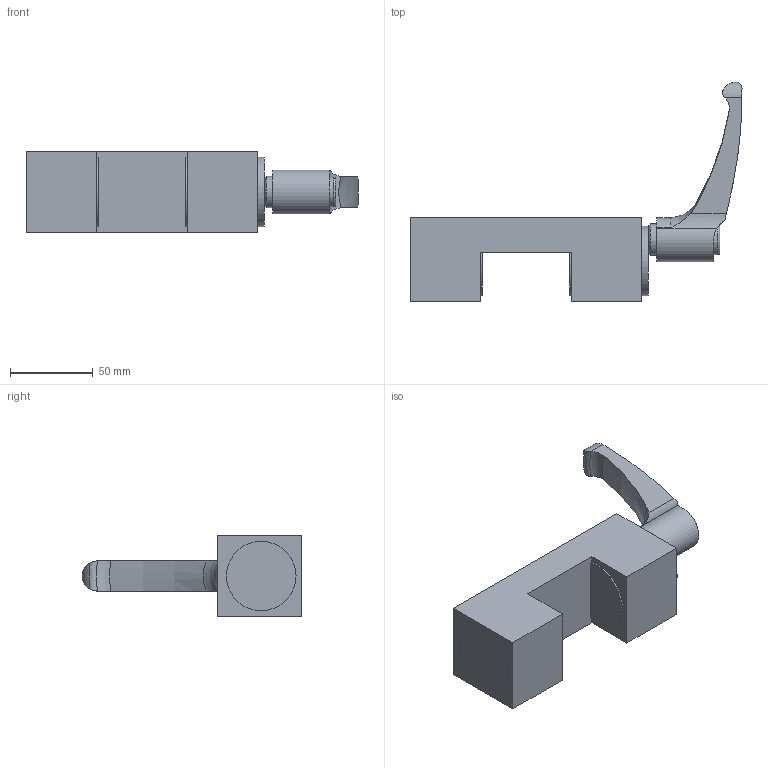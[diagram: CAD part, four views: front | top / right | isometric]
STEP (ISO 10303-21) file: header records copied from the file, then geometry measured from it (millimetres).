
FILE_DESCRIPTION(/* description */ ('STEP AP214'),/* implementation_level */ '2;1');
FILE_NAME(/* name */ 'HK5501A',/* time_stamp */ '2023-05-09T02:59:13+02:00',/* author */ ('License CC BY-ND 4.0'),/* organization */ ('CADENAS'),/* preprocessor_version */ 'ST-DEVELOPER v19.3',/* originating_system */ 'PARTsolutions',/* authorisation */ ' ');
FILE_SCHEMA (('AUTOMOTIVE_DESIGN {1 0 10303 214 3 1 1}'));
Length unit declared in the file: millimetre
Products named in the file (3): HK5501A; ELESA-Klemmhebel GN 604-95-M10-SG_NBK; ghkHK5501A126353
Assembly tree (2 placements, depth 2):
  HK5501A
    ELESA-Klemmhebel GN 604-95-M10-SG_NBK
    ghkHK5501A126353
Bounding box: 200.61 x 132.7 x 49 mm (x, y, z)
Volume: 310285.5 mm3; surface area: 45424.3 mm2
Topology: 2 solids, 2 shells, 65 faces, 163 edges, 107 vertices
Faces by surface type: plane 28, cylinder 18, cone 10, torus 9
Full cylindrical faces by diameter (mm): 8.376 x1, 11.835 x4, 19 x1, 42 x2
Entity records: 1936 total; most frequent: CARTESIAN_POINT 458, DIRECTION 278, ORIENTED_EDGE 270, EDGE_CURVE 135, AXIS2_PLACEMENT_3D 109, VERTEX_POINT 101, FACE_BOUND 92, EDGE_LOOP 88
